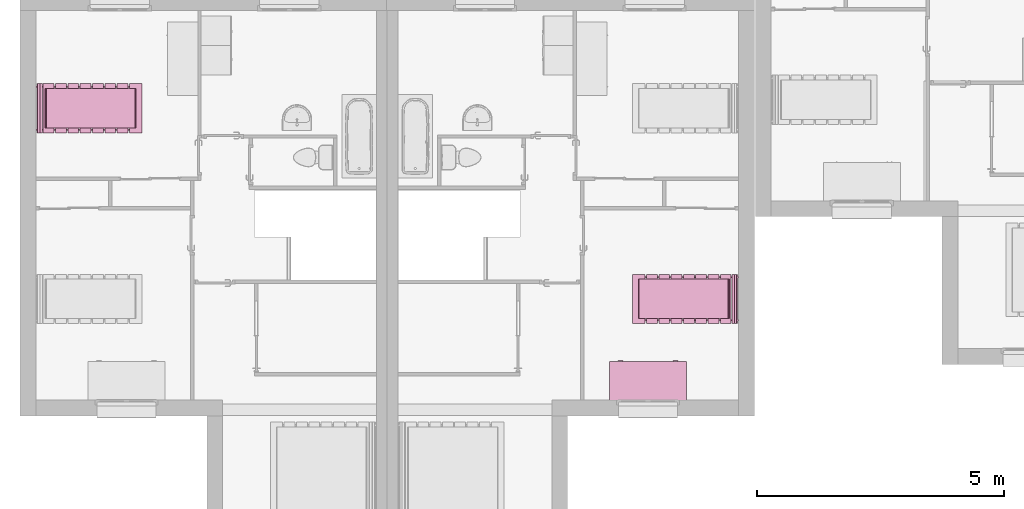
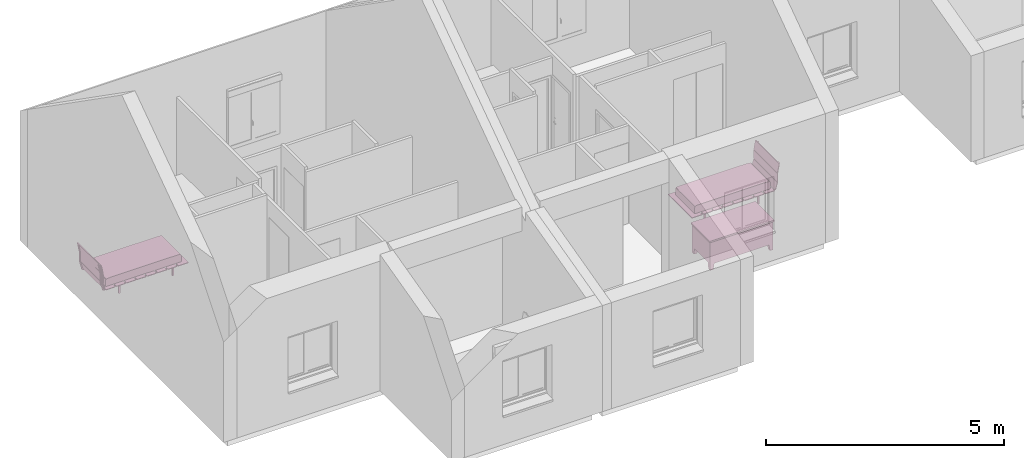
# One storey, part 44 of 50: 3 furnishings.
"""IFC2X3 building model written with IfcOpenShell, lengths in metres."""

from ifc_helpers import new_model, entity, si_unit, converted_unit, derived_unit, direction, frame, frame_2d, origin, origin_2d_with_axis, place, context, subcontext, project, spatial, polyline, circle_curve, parameter, trimmed, segment, composite_curve, rectangle, outline, extrude, faceted_brep, source, transform, mapped, material, material_list, type_object, type_shapes, element, save


model = new_model("IFC2X3")

# Units and contexts
model_context = context("Model", 3, precision=1e-05, world=origin(), true_north=direction((6.12303176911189e-17, 1.0)))
context_of_model = context(None, 3, precision=1e-05, world=origin(), true_north=direction((6.12303176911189e-17, 1.0)))
body_context = subcontext(model_context, "Body", "Model", "MODEL_VIEW")
ifc_project = project(units=[si_unit("LENGTHUNIT", "METRE"), si_unit("AREAUNIT", "SQUARE_METRE"), si_unit("VOLUMEUNIT", "CUBIC_METRE"), converted_unit("PLANEANGLEUNIT", "DEGREE", entity("IfcRatioMeasure", 0.0174532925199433), si_unit("PLANEANGLEUNIT", "RADIAN"), dimensions=[0, 0, 0, 0, 0, 0, 0]), si_unit("MASSUNIT", "GRAM", prefix="KILO"), si_unit("TIMEUNIT", "SECOND"), si_unit("FREQUENCYUNIT", "HERTZ"), si_unit("THERMODYNAMICTEMPERATUREUNIT", "DEGREE_CELSIUS"), derived_unit("THERMALTRANSMITTANCEUNIT", [(si_unit("MASSUNIT", "GRAM", prefix="KILO"), 1), (si_unit("THERMODYNAMICTEMPERATUREUNIT", "KELVIN"), -1), (si_unit("TIMEUNIT", "SECOND"), -3)]), derived_unit("VOLUMETRICFLOWRATEUNIT", [(si_unit("LENGTHUNIT", "METRE"), 3), (si_unit("TIMEUNIT", "SECOND"), -1)]), si_unit("ELECTRICCURRENTUNIT", "AMPERE"), si_unit("ELECTRICVOLTAGEUNIT", "VOLT"), si_unit("POWERUNIT", "WATT"), si_unit("FORCEUNIT", "NEWTON", prefix="KILO"), si_unit("ILLUMINANCEUNIT", "LUX"), si_unit("LUMINOUSFLUXUNIT", "LUMEN"), si_unit("LUMINOUSINTENSITYUNIT", "CANDELA"), si_unit("PRESSUREUNIT", "PASCAL")], contexts=[model_context, context_of_model])

# Site, building, storey
site_placement = place(None, origin())
site = spatial("IfcSite", under=ifc_project, at=site_placement, Name="Surface", CompositionType="ELEMENT")
building_placement = place(site_placement, origin())
building = spatial("IfcBuilding", under=site, at=building_placement, CompositionType="ELEMENT")
storey_placement = place(building_placement, frame((0.0, 0.0, 2.82)))
storey = spatial("IfcBuildingStorey", under=building, at=storey_placement, Name="ETAGE", CompositionType="ELEMENT", Elevation=2.82)

# Furnishings
ifc_material_1 = material(Name="Bois - Mélaminé ivoire")
ifc_material_2 = material(Name="Métal - Chrome")
ifc_material_3 = material(Name="Bois - Cerisier")
ifc_material_list_1 = material_list([ifc_material_1, ifc_material_2, ifc_material_3])
ifc_material_list_2 = material_list([ifc_material_1, ifc_material_2, ifc_material_3])
furniture_type_1 = type_object("IfcFurnitureType", Name="1525 mm x 762 mm", AssemblyPlace="NOTDEFINED", material=ifc_material_list_2)
shared_shape_1 = source(origin(), body_context, "Body", "Brep", [
    faceted_brep([(1.13765, 0.761999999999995, 0.70485), (1.13765, 0.761999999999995, 0.60325), (1.50595, 0.761999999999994, 0.60325), (1.50595, 0.761999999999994, 0.70485), (1.13765, 0.774699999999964, 0.70485), (1.13765, 0.774699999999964, 0.60325), (1.50595, 0.774699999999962, 0.60325), (1.50595, 0.774699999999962, 0.70485)], [[[0, 1, 2, 3]], [[1, 0, 4, 5]], [[2, 1, 5, 6]], [[3, 2, 6, 7]], [[0, 3, 7, 4]], [[4, 7, 6, 5]]]),
    faceted_brep([(1.50595, 0.774699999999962, 0.5842), (1.50595, 0.774699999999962, 0.17105), (1.13765, 0.774699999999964, 0.17105), (1.13765, 0.774699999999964, 0.5842), (1.13765, 0.761999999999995, 0.5842), (1.50595, 0.761999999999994, 0.5842), (1.13765, 0.761999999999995, 0.17105), (1.50595, 0.761999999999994, 0.17105)], [[[0, 1, 2, 3]], [[4, 5, 0, 3]], [[6, 4, 3, 2]], [[7, 6, 2, 1]], [[5, 7, 1, 0]], [[5, 4, 6, 7]]]),
    faceted_brep([(0.38735, 0.761999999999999, 0.70485), (0.01905, 0.761999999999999, 0.70485), (0.01905, 0.761999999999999, 0.60285), (0.38735, 0.761999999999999, 0.60285), (0.38735, 0.774700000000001, 0.70485), (0.01905, 0.774700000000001, 0.70485), (0.01905, 0.774700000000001, 0.60285), (0.38735, 0.774700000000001, 0.60285)], [[[0, 1, 2, 3]], [[1, 0, 4, 5]], [[2, 1, 5, 6]], [[3, 2, 6, 7]], [[0, 3, 7, 4]], [[4, 7, 6, 5]]]),
    faceted_brep([(0.01905, 0.774700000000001, 0.5838), (0.38735, 0.774700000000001, 0.5838), (0.38735, 0.774700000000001, 0.4822), (0.01905, 0.774700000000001, 0.4822), (0.01905, 0.761999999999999, 0.4822), (0.01905, 0.761999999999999, 0.5838), (0.38735, 0.761999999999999, 0.4822), (0.38735, 0.761999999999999, 0.5838)], [[[0, 1, 2, 3]], [[4, 5, 0, 3]], [[6, 4, 3, 2]], [[7, 6, 2, 1]], [[5, 7, 1, 0]], [[5, 4, 6, 7]]]),
    faceted_brep([(0.01905, 0.761999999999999, 0.17105), (0.01905, 0.761999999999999, 0.3425), (0.01905, 0.774700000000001, 0.3425), (0.01905, 0.774700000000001, 0.17105), (0.38735, 0.761999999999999, 0.17105), (0.38735, 0.774700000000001, 0.17105), (0.38735, 0.761999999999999, 0.3425), (0.38735, 0.774700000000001, 0.3425)], [[[0, 1, 2, 3]], [[4, 0, 3, 5]], [[6, 4, 5, 7]], [[1, 6, 7, 2]], [[2, 7, 5, 3]], [[1, 0, 4, 6]]]),
    faceted_brep([(0.01905, 0.761999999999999, 0.36155), (0.01905, 0.761999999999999, 0.46315), (0.01905, 0.774700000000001, 0.46315), (0.01905, 0.774700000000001, 0.36155), (0.38735, 0.761999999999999, 0.36155), (0.38735, 0.774700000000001, 0.36155), (0.38735, 0.761999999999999, 0.46315), (0.38735, 0.774700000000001, 0.46315)], [[[0, 1, 2, 3]], [[4, 0, 3, 5]], [[6, 4, 5, 7]], [[1, 6, 7, 2]], [[2, 7, 5, 3]], [[1, 0, 4, 6]]]),
    faceted_brep([(1.42339999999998, 0.761999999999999, 0.152), (1.42339999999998, 0.660399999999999, 0.152), (1.52499999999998, 0.660399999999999, 0.152), (1.52499999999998, 0.761999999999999, 0.152), (1.44879999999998, 0.762, 0.0), (1.52499999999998, 0.762, 0.0), (1.52499999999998, 0.6858, 0.0), (1.44879999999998, 0.6858, 0.0)], [[[0, 1, 2, 3]], [[4, 5, 6, 7]], [[4, 7, 1, 0]], [[7, 6, 2, 1]], [[6, 5, 3, 2]], [[5, 4, 0, 3]]]),
    faceted_brep([(1.4234, 0.0, 0.152), (1.525, 0.0, 0.152), (1.525, 0.1016, 0.152), (1.4234, 0.1016, 0.152), (1.4488, 0.0, 0.0), (1.4488, 0.0761999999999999, 0.0), (1.525, 0.0761999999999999, 0.0), (1.525, 0.0, 0.0)], [[[0, 1, 2, 3]], [[4, 5, 6, 7]], [[4, 7, 1, 0]], [[7, 6, 2, 1]], [[6, 5, 3, 2]], [[5, 4, 0, 3]]]),
    faceted_brep([(0.1016, 0.0, 0.152), (0.1016, 0.1016, 0.152), (0.0, 0.1016, 0.152), (0.0, 0.0, 0.152), (0.0762, 0.0, 0.0), (0.0, 0.0, 0.0), (0.0, 0.0761999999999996, 0.0), (0.0762, 0.0761999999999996, 0.0)], [[[0, 1, 2, 3]], [[4, 5, 6, 7]], [[4, 7, 1, 0]], [[7, 6, 2, 1]], [[6, 5, 3, 2]], [[5, 4, 0, 3]]]),
    faceted_brep([(0.1016, 0.762000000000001, 0.152), (0.0, 0.762000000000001, 0.152), (0.0, 0.660400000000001, 0.152), (0.1016, 0.660400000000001, 0.152), (0.0761999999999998, 0.762000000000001, 0.0), (0.0761999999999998, 0.685800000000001, 0.0), (0.0, 0.685800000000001, 0.0), (0.0, 0.762000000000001, 0.0)], [[[0, 1, 2, 3]], [[4, 5, 6, 7]], [[4, 7, 1, 0]], [[7, 6, 2, 1]], [[6, 5, 3, 2]], [[5, 4, 0, 3]]]),
    faceted_brep([(0.4064, 0.761999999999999, 0.723900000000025), (0.0, 0.761999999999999, 0.723900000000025), (0.0, 0.0, 0.723900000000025), (1.525, 0.0, 0.723900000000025), (1.525, 0.761999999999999, 0.723900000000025), (1.11860000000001, 0.761999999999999, 0.723900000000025), (1.11860000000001, 0.0508000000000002, 0.723900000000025), (0.4064, 0.0508000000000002, 0.723900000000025), (0.4064, 0.761999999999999, 0.152), (0.4064, 0.0508000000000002, 0.152), (1.11860000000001, 0.0508000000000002, 0.152), (1.11860000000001, 0.761999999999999, 0.152), (1.525, 0.761999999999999, 0.152), (1.525, 0.0, 0.152), (0.0, 0.0, 0.152), (0.0, 0.761999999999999, 0.152)], [[[0, 1, 2, 3, 4, 5, 6, 7]], [[8, 9, 10, 11, 12, 13, 14, 15]], [[1, 0, 8, 15]], [[2, 1, 15, 14]], [[3, 2, 14, 13]], [[4, 3, 13, 12]], [[5, 4, 12, 11]], [[6, 5, 11, 10]], [[7, 6, 10, 9]], [[0, 7, 9, 8]]]),
    faceted_brep([(1.54405000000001, 0.781049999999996, 0.761999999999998), (-0.0190499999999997, 0.781049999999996, 0.761999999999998), (-0.0190499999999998, -0.0190500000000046, 0.761999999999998), (1.54405000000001, -0.0190500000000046, 0.761999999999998), (1.54405000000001, 0.781049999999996, 0.723900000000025), (1.54405000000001, -0.0190500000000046, 0.723900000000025), (-0.0190499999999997, -0.0190500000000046, 0.723900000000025), (-0.0190499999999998, 0.781049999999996, 0.723900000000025)], [[[0, 1, 2, 3]], [[4, 5, 6, 7]], [[1, 0, 4, 7]], [[2, 1, 7, 6]], [[3, 2, 6, 5]], [[0, 3, 5, 4]]]),
    faceted_brep([(1.36624999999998, 0.774699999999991, 0.546100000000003), (1.36624999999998, 0.774699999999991, 0.533399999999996), (1.37259999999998, 0.774699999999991, 0.533399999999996), (1.37259999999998, 0.774699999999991, 0.546100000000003), (1.36624999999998, 0.793749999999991, 0.546100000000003), (1.36624999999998, 0.793749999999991, 0.533399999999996), (1.37259999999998, 0.80009999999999, 0.533399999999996), (1.37259999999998, 0.80009999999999, 0.546100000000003), (1.27734999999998, 0.793749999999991, 0.546100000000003), (1.27734999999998, 0.793749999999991, 0.533399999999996), (1.27099999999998, 0.80009999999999, 0.533399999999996), (1.27099999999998, 0.80009999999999, 0.546100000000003), (1.27734999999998, 0.774699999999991, 0.546100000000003), (1.27734999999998, 0.774699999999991, 0.533399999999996), (1.27099999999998, 0.774699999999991, 0.533399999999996), (1.27099999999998, 0.774699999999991, 0.546100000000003)], [[[0, 1, 2, 3]], [[1, 0, 4, 5]], [[2, 1, 5, 6]], [[3, 2, 6, 7]], [[0, 3, 7, 4]], [[5, 4, 8, 9]], [[6, 5, 9, 10]], [[7, 6, 10, 11]], [[4, 7, 11, 8]], [[9, 8, 12, 13]], [[10, 9, 13, 14]], [[11, 10, 14, 15]], [[8, 11, 15, 12]], [[12, 15, 14, 13]]]),
    faceted_brep([(1.36624999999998, 0.774699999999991, 0.654050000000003), (1.36624999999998, 0.774699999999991, 0.666750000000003), (1.36624999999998, 0.79374999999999, 0.666750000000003), (1.36624999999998, 0.79374999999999, 0.654050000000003), (1.37259999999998, 0.774699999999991, 0.654050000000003), (1.37259999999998, 0.800099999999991, 0.654050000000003), (1.37259999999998, 0.774699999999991, 0.666750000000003), (1.37259999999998, 0.800099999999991, 0.666750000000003), (1.27734999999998, 0.79374999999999, 0.666750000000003), (1.27734999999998, 0.79374999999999, 0.654050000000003), (1.27099999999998, 0.800099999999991, 0.654050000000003), (1.27099999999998, 0.800099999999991, 0.666750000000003), (1.27734999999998, 0.774699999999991, 0.666750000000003), (1.27099999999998, 0.774699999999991, 0.666750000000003), (1.27099999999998, 0.774699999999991, 0.654050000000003), (1.27734999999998, 0.774699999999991, 0.654050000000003)], [[[0, 1, 2, 3]], [[4, 0, 3, 5]], [[6, 4, 5, 7]], [[1, 6, 7, 2]], [[3, 2, 8, 9]], [[5, 3, 9, 10]], [[7, 5, 10, 11]], [[2, 7, 11, 8]], [[12, 13, 14, 15]], [[9, 8, 12, 15]], [[10, 9, 15, 14]], [[11, 10, 14, 13]], [[8, 11, 13, 12]], [[1, 0, 4, 6]]]),
    faceted_brep([(0.15875, 0.774699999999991, 0.3048), (0.1524, 0.774699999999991, 0.3048), (0.1524, 0.774699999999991, 0.2921), (0.15875, 0.774699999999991, 0.2921), (0.15875, 0.793749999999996, 0.3048), (0.1524, 0.800099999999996, 0.3048), (0.1524, 0.800099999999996, 0.2921), (0.15875, 0.793749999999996, 0.2921), (0.24765, 0.793749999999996, 0.3048), (0.254, 0.800099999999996, 0.3048), (0.254, 0.800099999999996, 0.2921), (0.24765, 0.793749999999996, 0.2921), (0.24765, 0.774699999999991, 0.3048), (0.254, 0.774699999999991, 0.3048), (0.254, 0.774699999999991, 0.2921), (0.24765, 0.774699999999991, 0.2921)], [[[0, 1, 2, 3]], [[1, 0, 4, 5]], [[2, 1, 5, 6]], [[3, 2, 6, 7]], [[0, 3, 7, 4]], [[5, 4, 8, 9]], [[6, 5, 9, 10]], [[7, 6, 10, 11]], [[4, 7, 11, 8]], [[9, 8, 12, 13]], [[10, 9, 13, 14]], [[11, 10, 14, 15]], [[8, 11, 15, 12]], [[12, 15, 14, 13]]]),
    faceted_brep([(0.1524, 0.774699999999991, 0.425450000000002), (0.15875, 0.774699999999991, 0.425450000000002), (0.15875, 0.793749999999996, 0.425450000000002), (0.1524, 0.800099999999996, 0.425450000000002), (0.1524, 0.774699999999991, 0.412750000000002), (0.1524, 0.800099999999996, 0.412750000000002), (0.15875, 0.774699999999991, 0.412750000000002), (0.15875, 0.793749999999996, 0.412750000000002), (0.24765, 0.793749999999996, 0.425450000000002), (0.254, 0.800099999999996, 0.425450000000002), (0.254, 0.800099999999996, 0.412750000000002), (0.24765, 0.793749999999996, 0.412750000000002), (0.24765, 0.774699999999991, 0.425450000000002), (0.254, 0.774699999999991, 0.425450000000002), (0.254, 0.774699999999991, 0.412750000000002), (0.24765, 0.774699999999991, 0.412750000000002)], [[[0, 1, 2, 3]], [[4, 0, 3, 5]], [[6, 4, 5, 7]], [[1, 6, 7, 2]], [[3, 2, 8, 9]], [[5, 3, 9, 10]], [[7, 5, 10, 11]], [[2, 7, 11, 8]], [[9, 8, 12, 13]], [[10, 9, 13, 14]], [[11, 10, 14, 15]], [[8, 11, 15, 12]], [[12, 15, 14, 13]], [[1, 0, 4, 6]]]),
    faceted_brep([(0.1524, 0.774699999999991, 0.5461), (0.15875, 0.774699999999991, 0.5461), (0.15875, 0.793749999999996, 0.5461), (0.1524, 0.800099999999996, 0.5461), (0.1524, 0.774699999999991, 0.5334), (0.1524, 0.800099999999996, 0.5334), (0.15875, 0.774699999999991, 0.5334), (0.15875, 0.793749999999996, 0.5334), (0.24765, 0.793749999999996, 0.5461), (0.254, 0.800099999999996, 0.5461), (0.254, 0.800099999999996, 0.5334), (0.24765, 0.793749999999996, 0.5334), (0.24765, 0.774699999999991, 0.5461), (0.254, 0.774699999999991, 0.5461), (0.254, 0.774699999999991, 0.5334), (0.24765, 0.774699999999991, 0.5334)], [[[0, 1, 2, 3]], [[4, 0, 3, 5]], [[6, 4, 5, 7]], [[1, 6, 7, 2]], [[3, 2, 8, 9]], [[5, 3, 9, 10]], [[7, 5, 10, 11]], [[2, 7, 11, 8]], [[9, 8, 12, 13]], [[10, 9, 13, 14]], [[11, 10, 14, 15]], [[8, 11, 15, 12]], [[12, 15, 14, 13]], [[1, 0, 4, 6]]]),
    faceted_brep([(0.1524, 0.774699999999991, 0.666750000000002), (0.15875, 0.774699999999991, 0.666750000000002), (0.15875, 0.793749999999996, 0.666750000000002), (0.1524, 0.800099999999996, 0.666750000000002), (0.1524, 0.774699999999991, 0.654050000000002), (0.1524, 0.800099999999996, 0.654050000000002), (0.15875, 0.774699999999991, 0.654050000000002), (0.15875, 0.793749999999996, 0.654050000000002), (0.24765, 0.793749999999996, 0.666750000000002), (0.254, 0.800099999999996, 0.666750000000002), (0.254, 0.800099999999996, 0.654050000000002), (0.24765, 0.793749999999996, 0.654050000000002), (0.24765, 0.774699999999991, 0.666750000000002), (0.24765, 0.774699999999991, 0.654050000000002), (0.254, 0.774699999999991, 0.654050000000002), (0.254, 0.774699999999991, 0.666750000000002)], [[[0, 1, 2, 3]], [[4, 0, 3, 5]], [[6, 4, 5, 7]], [[1, 6, 7, 2]], [[3, 2, 8, 9]], [[5, 3, 9, 10]], [[7, 5, 10, 11]], [[2, 7, 11, 8]], [[12, 13, 14, 15]], [[9, 8, 12, 15]], [[10, 9, 15, 14]], [[11, 10, 14, 13]], [[8, 11, 13, 12]], [[1, 0, 4, 6]]]),
])
type_shapes(furniture_type_1, [shared_shape_1])
furnishing_1_placement = place(storey_placement, frame((73.3596263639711, 80.2077566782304, 0.0199999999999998)))
element("IfcFurnishingElement", 1, at=furnishing_1_placement, inside=storey, type_object=furniture_type_1, material=ifc_material_list_1, Name="Bureau commun:1525 mm x 762 mm", ObjectType="1525 mm x 762 mm", context=body_context, shape_type="MappedRepresentation", body=[
    mapped(shared_shape_1, transform((0.0, 0.0, 0.0), scale=1.0)),
])
ifc_material_4 = material(Name="Textile - Bleu pâle")
ifc_material_5 = material(Name="Bois - Teck")
ifc_material_6 = material(Name="Plastique - Noir")
ifc_material_list_3 = material_list([ifc_material_4, ifc_material_5, ifc_material_6])
ifc_material_list_4 = material_list([ifc_material_4, ifc_material_5, ifc_material_6])
furniture_type_2 = type_object("IfcFurnitureType", Name="1000 mm x 2000 mm 3", AssemblyPlace="NOTDEFINED", material=ifc_material_list_4)
shared_shape_2 = source(origin(), body_context, "Body", "SweptSolid", [
    extrude(outline(composite_curve([segment(polyline([(-0.755361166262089, -0.0846796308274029), (0.695178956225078, -0.0846796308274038)]), True, "CONTINUOUS"), segment(polyline([(0.695178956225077, -0.0846796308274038), (0.816394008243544, -0.078623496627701)]), True, "CONTINUOUS"), segment(polyline([(0.816394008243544, -0.078623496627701), (0.842657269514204, -0.0725673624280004)]), True, "CONTINUOUS"), segment(polyline([(0.842657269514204, -0.0725673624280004), (0.856799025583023, -0.0624738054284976)]), True, "CONTINUOUS"), segment(polyline([(0.856799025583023, -0.0624738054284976), (0.862859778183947, -0.0443054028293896)]), True, "CONTINUOUS"), segment(polyline([(0.862859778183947, -0.0443054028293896), (0.866900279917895, -0.0120060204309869)]), True, "CONTINUOUS"), segment(polyline([(0.866900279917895, -0.0120060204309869), (0.866900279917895, 0.0747985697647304)]), True, "CONTINUOUS"), segment(polyline([(0.866900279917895, 0.0747985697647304), (0.862859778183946, 0.105079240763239)]), True, "CONTINUOUS"), segment(polyline([(0.862859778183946, 0.105079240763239), (0.856799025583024, 0.113154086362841)]), True, "CONTINUOUS"), segment(polyline([(0.856799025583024, 0.113154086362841), (0.836596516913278, 0.117191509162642)]), True, "CONTINUOUS"), segment(polyline([(0.836596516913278, 0.117191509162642), (-0.953345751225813, 0.117191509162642)]), True, "CONTINUOUS"), segment(polyline([(-0.953345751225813, 0.117191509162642), (-0.969507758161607, 0.115172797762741)]), True, "CONTINUOUS"), segment(polyline([(-0.969507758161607, 0.115172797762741), (-0.971528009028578, 0.103060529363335)]), True, "CONTINUOUS"), segment(polyline([(-0.971528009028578, 0.103060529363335), (-0.971528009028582, -0.0160434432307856)]), True, "CONTINUOUS"), segment(trimmed(circle_curve(frame_2d((-0.76779044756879, -0.0160434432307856), x_axis=(-1.0, 0.0)), 0.203737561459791), [parameter(360.0)], [parameter(11.4298384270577)], True, "PARAMETER"), True, "CONTINUOUS"), segment(trimmed(circle_curve(frame_2d((-0.944467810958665, -0.0517636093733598), x_axis=(-1.0, 0.0)), 0.0234854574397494), [parameter(11.4298384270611)], [parameter(62.3518913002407)], True, "PARAMETER"), True, "CONTINUOUS"), segment(trimmed(circle_curve(frame_2d((-0.929629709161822, -0.0234388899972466), x_axis=(-1.0, 0.0)), 0.0554613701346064), [parameter(62.35189130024)], [parameter(84.2736549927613)], True, "PARAMETER"), True, "CONTINUOUS"), segment(trimmed(circle_curve(frame_2d((-0.809859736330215, 1.1709442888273), x_axis=(-1.0, 0.0)), 1.25583465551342), [parameter(84.2736549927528)], [parameter(86.5854437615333)], True, "PARAMETER"), True, "CONTINUOUS"), segment(polyline([(-0.884657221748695, -0.0826609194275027), (-0.755361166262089, -0.0846796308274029)]), True, "CONTINUOUS")], self_intersect=False)), frame((-0.4, 1.05656455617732, 0.367191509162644), z_axis=(1.0, 0.0, 0.0), x_axis=(0.0, -1.0, 0.0)), (0.0, 0.0, 1.0), 0.799999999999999),
    extrude(rectangle(XDim=1.0, YDim=0.249999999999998, at=origin_2d_with_axis()), frame((0.0, 2.02499620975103, 0.232311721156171), z_axis=(0.0, 0.0, 1.0), x_axis=(-1.0, 0.0, 0.0)), (0.0, 0.0, 1.0), 0.0176882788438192),
    extrude(outline(polyline([(-0.114793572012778, -0.00886960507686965), (0.115119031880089, -0.00886960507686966), (0.115119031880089, 0.00896042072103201), (-0.115444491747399, 0.00877878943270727), (-0.114793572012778, -0.00886960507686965)])), frame((-0.5, 0.051324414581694, 0.783374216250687), z_axis=(1.0, 0.0, 0.0), x_axis=(0.0, -0.182165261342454, 0.983267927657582)), (0.0, 0.0, 1.0), 0.999999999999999),
    extrude(rectangle(XDim=1.0, YDim=0.219999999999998, at=frame_2d((0.0, 1.38777878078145e-16), x_axis=(1.0, 0.0))), frame((0.0, 1.75999620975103, 0.232311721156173), z_axis=(0.0, 0.0, 1.0), x_axis=(-1.0, 0.0, 0.0)), (0.0, 0.0, 1.0), 0.0176882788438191),
    extrude(rectangle(XDim=1.0, YDim=0.219999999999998, at=frame_2d((0.0, -1.31838984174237e-16), x_axis=(1.0, 0.0))), frame((0.0, 1.50999620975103, 0.232311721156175), z_axis=(0.0, 0.0, 1.0), x_axis=(-1.0, 0.0, 0.0)), (0.0, 0.0, 1.0), 0.017688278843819),
    extrude(rectangle(XDim=1.0, YDim=0.219999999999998, at=frame_2d((0.0, -1.38777878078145e-16), x_axis=(1.0, 0.0))), frame((0.0, 1.25999620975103, 0.232311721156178), z_axis=(0.0, 0.0, 1.0), x_axis=(-1.0, 0.0, 0.0)), (0.0, 0.0, 1.0), 0.0176882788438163),
    extrude(rectangle(XDim=1.0, YDim=0.219999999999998, at=frame_2d((0.0, 6.93889390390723e-17), x_axis=(1.0, 0.0))), frame((0.0, 1.00999620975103, 0.232311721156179), z_axis=(0.0, 0.0, 1.0), x_axis=(-1.0, 0.0, 0.0)), (0.0, 0.0, 1.0), 0.0176882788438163),
    extrude(rectangle(XDim=1.0, YDim=0.22, at=origin_2d_with_axis()), frame((0.0, 0.759996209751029, 0.232311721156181), z_axis=(0.0, 0.0, 1.0), x_axis=(-1.0, 0.0, 0.0)), (0.0, 0.0, 1.0), 0.0176882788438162),
    extrude(rectangle(XDim=1.0, YDim=0.22, at=origin_2d_with_axis()), frame((0.0, 0.509996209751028, 0.232311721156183), z_axis=(0.0, 0.0, 1.0), x_axis=(-1.0, 0.0, 0.0)), (0.0, 0.0, 1.0), 0.0176882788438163),
    extrude(rectangle(XDim=1.0, YDim=0.22, at=origin_2d_with_axis()), frame((0.0, 0.259996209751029, 0.232311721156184), z_axis=(0.0, 0.0, 1.0), x_axis=(-1.0, 0.0, 0.0)), (0.0, 0.0, 1.0), 0.0176882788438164),
    extrude(rectangle(XDim=1.0, YDim=0.0183684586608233, at=origin_2d_with_axis()), frame((0.0, 0.0735868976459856, 0.443802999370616), z_axis=(0.0, 0.0, 1.0), x_axis=(-1.0, 0.0, 0.0)), (0.0, 0.0, 1.0), 0.214481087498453),
    extrude(outline(polyline([(-0.0941857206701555, -0.00889996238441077), (0.0936128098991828, -0.00889996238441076), (0.0943260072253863, 0.00869876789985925), (-0.0937530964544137, 0.00910115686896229), (-0.0941857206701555, -0.00889996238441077)])), frame((-0.5, 0.100341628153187, 0.340588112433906), z_axis=(1.0, 0.0, 0.0), x_axis=(0.0, -0.268983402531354, 0.96314481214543)), (0.0, 0.0, 1.0), 0.999999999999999),
    extrude(rectangle(XDim=0.03, YDim=0.0421792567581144, at=frame_2d((3.38271077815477e-17, -2.70616862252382e-16), x_axis=(1.0, 0.0))), frame((-0.434999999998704, 1.80439834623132, 0.0)), (0.0, 0.0, 1.0), 0.204645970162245),
    extrude(rectangle(XDim=0.03, YDim=0.0421792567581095, at=frame_2d((3.38271077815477e-17, -3.29597460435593e-17), x_axis=(1.0, 0.0))), frame((-0.434999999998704, 0.505017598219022, 0.0)), (0.0, 0.0, 1.0), 0.204645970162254),
    extrude(rectangle(XDim=0.03, YDim=0.0421792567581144, at=frame_2d((-3.38271077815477e-17, 0.0), x_axis=(1.0, 0.0))), frame((0.435000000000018, 1.80439834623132, 0.0), z_axis=(0.0, 0.0, 1.0), x_axis=(-1.0, 0.0, 0.0)), (0.0, 0.0, 1.0), 0.204645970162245),
    extrude(rectangle(XDim=0.03, YDim=0.0421792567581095, at=frame_2d((-3.38271077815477e-17, -3.29597460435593e-17), x_axis=(1.0, 0.0))), frame((0.435000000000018, 0.505017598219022, 0.0), z_axis=(0.0, 0.0, 1.0), x_axis=(-1.0, 0.0, 0.0)), (0.0, 0.0, 1.0), 0.204645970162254),
    extrude(outline(composite_curve([segment(polyline([(-0.499010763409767, 0.346366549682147), (-0.499569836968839, 0.324560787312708)]), True, "CONTINUOUS"), segment(polyline([(-0.499569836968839, 0.324560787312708), (-0.2642053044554, 0.324063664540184)]), True, "CONTINUOUS"), segment(polyline([(-0.2642053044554, 0.324063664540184), (-0.0414406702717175, 0.365029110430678)]), True, "CONTINUOUS"), segment(polyline([(-0.0414406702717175, 0.365029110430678), (0.170125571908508, 0.346291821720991)]), True, "CONTINUOUS"), segment(polyline([(0.170125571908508, 0.346291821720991), (0.528537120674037, -1.59768807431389)]), True, "CONTINUOUS"), segment(polyline([(0.528537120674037, -1.59768807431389), (0.549932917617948, -1.56608457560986)]), True, "CONTINUOUS"), segment(polyline([(0.549932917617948, -1.56608457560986), (0.19740578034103, 0.350911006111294)]), True, "CONTINUOUS"), segment(trimmed(circle_curve(frame_2d((0.17103903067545, 0.346062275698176), x_axis=(0.180862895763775, -0.983508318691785)), 0.0268088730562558), [parameter(90.0)], [parameter(167.367566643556)], True, "PARAMETER"), True, "CONTINUOUS"), segment(polyline([(0.172073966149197, 0.372851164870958), (-0.0455420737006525, 0.387331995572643)]), True, "CONTINUOUS"), segment(polyline([(-0.0455420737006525, 0.387331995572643), (-0.268306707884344, 0.346366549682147)]), True, "CONTINUOUS"), segment(polyline([(-0.268306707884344, 0.346366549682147), (-0.499010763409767, 0.346366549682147)]), True, "CONTINUOUS")], self_intersect=False)), frame((-0.449999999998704, 0.430906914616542, 0.462262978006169), z_axis=(-1.0, 0.0, 0.0), x_axis=(0.0, 0.180862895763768, -0.983508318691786)), (0.0, 0.0, -1.0), 0.0299999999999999),
    extrude(outline(composite_curve([segment(polyline([(-0.499010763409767, 0.346366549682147), (-0.49956983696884, 0.324560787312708)]), True, "CONTINUOUS"), segment(polyline([(-0.49956983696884, 0.324560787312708), (-0.2642053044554, 0.324063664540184)]), True, "CONTINUOUS"), segment(polyline([(-0.2642053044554, 0.324063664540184), (-0.0414406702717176, 0.365029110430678)]), True, "CONTINUOUS"), segment(polyline([(-0.0414406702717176, 0.365029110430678), (0.170125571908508, 0.346291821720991)]), True, "CONTINUOUS"), segment(polyline([(0.170125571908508, 0.346291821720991), (0.528537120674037, -1.59768807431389)]), True, "CONTINUOUS"), segment(polyline([(0.528537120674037, -1.59768807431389), (0.549932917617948, -1.56608457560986)]), True, "CONTINUOUS"), segment(polyline([(0.549932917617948, -1.56608457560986), (0.19740578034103, 0.350911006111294)]), True, "CONTINUOUS"), segment(trimmed(circle_curve(frame_2d((0.17103903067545, 0.346062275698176), x_axis=(0.180862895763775, -0.983508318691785)), 0.0268088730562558), [parameter(90.0)], [parameter(167.367566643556)], True, "PARAMETER"), True, "CONTINUOUS"), segment(polyline([(0.172073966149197, 0.372851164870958), (-0.0455420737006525, 0.387331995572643)]), True, "CONTINUOUS"), segment(polyline([(-0.0455420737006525, 0.387331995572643), (-0.268306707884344, 0.346366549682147)]), True, "CONTINUOUS"), segment(polyline([(-0.268306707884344, 0.346366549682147), (-0.499010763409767, 0.346366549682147)]), True, "CONTINUOUS")], self_intersect=False)), frame((0.420000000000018, 0.430906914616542, 0.462262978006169), z_axis=(-1.0, 0.0, 0.0), x_axis=(0.0, 0.180862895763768, -0.983508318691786)), (0.0, 0.0, -1.0), 0.0299999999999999),
])
type_shapes(furniture_type_2, [shared_shape_2])
furnishing_2_placement = place(storey_placement, frame((61.7063634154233, 86.1277566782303, 0.0199999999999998), z_axis=(0.0, 0.0, 1.0), x_axis=(0.0, -1.0, 0.0)))
element("IfcFurnishingElement", 2, at=furnishing_2_placement, inside=storey, type_object=furniture_type_2, material=ifc_material_list_3, Name="Lit à lattes:1000 mm x 2000 mm 3", ObjectType="1000 mm x 2000 mm 3", context=body_context, shape_type="MappedRepresentation", body=[
    mapped(shared_shape_2, transform((0.0, 0.0, 0.0), scale=1.0)),
])
ifc_material_list_5 = material_list([ifc_material_4, ifc_material_5, ifc_material_6])
furnishing_3_placement = place(storey_placement, frame((75.962889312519, 82.2577566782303, 0.0199999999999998), z_axis=(0.0, 0.0, 1.0), x_axis=(0.0, 1.0, 0.0)))
element("IfcFurnishingElement", 3, at=furnishing_3_placement, inside=storey, type_object=furniture_type_2, material=ifc_material_list_5, Name="Lit à lattes:1000 mm x 2000 mm 3", ObjectType="1000 mm x 2000 mm 3", context=body_context, shape_type="MappedRepresentation", body=[
    mapped(shared_shape_2, transform((0.0, 0.0, 0.0), scale=1.0)),
])

save(model, "model.ifc")
